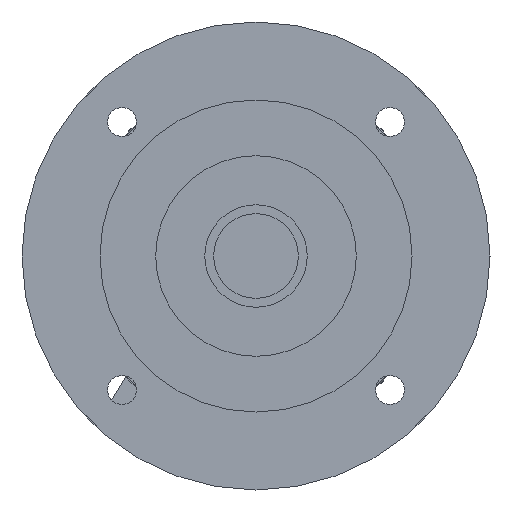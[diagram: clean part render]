
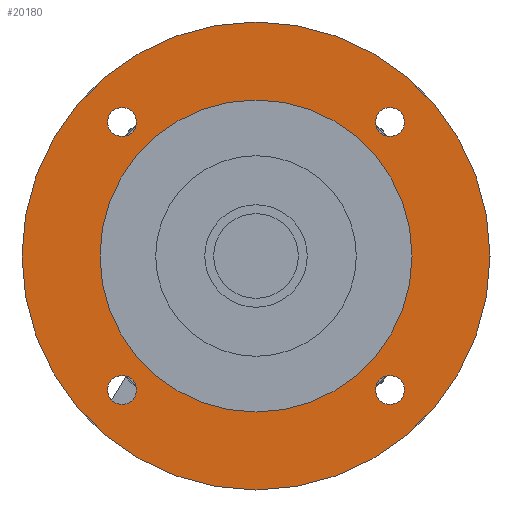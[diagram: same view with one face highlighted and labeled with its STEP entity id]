
A CAD part, left-side view. The second image highlights one B-rep face of the part: STEP entity #20180.
In plain terms, the highlighted planar face has unit normal (-1, 0, 0) as drawn and (0, 0, -1) by its records, which use the part's own axes.
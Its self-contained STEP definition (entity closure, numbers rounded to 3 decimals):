
#19020=CARTESIAN_POINT('',(-26.802,30.052,-42.));
#19030=VERTEX_POINT('',#19020);
#19060=CARTESIAN_POINT('',(-30.052,30.052,-42.));
#19070=DIRECTION('',(0.,0.,-1.));
#19080=DIRECTION('',(-1.,0.,0.));
#19090=AXIS2_PLACEMENT_3D('',#19060,#19070,#19080);
#19100=CIRCLE('',#19090,3.25);
#19110=CARTESIAN_POINT('',(-33.302,30.052,-42.));
#19120=VERTEX_POINT('',#19110);
#19130=EDGE_CURVE('',#19120,#19030,#19100,.T.);
#19250=CARTESIAN_POINT('',(0.,0.,-42.)
);
#19260=DIRECTION('',(0.,0.,-1.));
#19270=DIRECTION('',(1.,0.,0.));
#19280=AXIS2_PLACEMENT_3D('',#19250,#19260,#19270);
#19290=PLANE('',#19280);
#19300=CARTESIAN_POINT('',(30.052,-30.052,-42.));
#19310=DIRECTION('',(0.,0.,-1.));
#19320=DIRECTION('',(1.,0.,0.));
#19330=AXIS2_PLACEMENT_3D('',#19300,#19310,#19320);
#19340=CIRCLE('',#19330,3.25);
#19350=CARTESIAN_POINT('',(33.302,-30.052,-42.));
#19360=VERTEX_POINT('',#19350);
#19370=CARTESIAN_POINT('',(26.802,-30.052,-42.));
#19380=VERTEX_POINT('',#19370);
#19390=EDGE_CURVE('',#19360,#19380,#19340,.T.);
#19400=ORIENTED_EDGE('',*,*,#19390,.F.);
#19410=EDGE_CURVE('',#19380,#19360,#19340,.T.);
#19420=ORIENTED_EDGE('',*,*,#19410,.F.);
#19430=EDGE_LOOP('',(#19420,#19400));
#19440=FACE_BOUND('',#19430,.T.);
#19450=CARTESIAN_POINT('',(0.,0.,-42.)
);
#19460=DIRECTION('',(0.,0.,-1.));
#19470=DIRECTION('',(0.,-1.,0.));
#19480=AXIS2_PLACEMENT_3D('',#19450,#19460,#19470);
#19490=CIRCLE('',#19480,52.5);
#19500=CARTESIAN_POINT('',(-52.5,0.,-42.));
#19510=VERTEX_POINT('',#19500);
#19520=CARTESIAN_POINT('',(52.5,0.,-42.));
#19530=VERTEX_POINT('',#19520);
#19540=EDGE_CURVE('',#19510,#19530,#19490,.T.);
#19550=ORIENTED_EDGE('',*,*,#19540,.T.);
#19560=CARTESIAN_POINT('',(0.,-52.5,-42.));
#19570=VERTEX_POINT('',#19560);
#19580=EDGE_CURVE('',#19570,#19510,#19490,.T.);
#19590=ORIENTED_EDGE('',*,*,#19580,.T.);
#19600=EDGE_CURVE('',#19530,#19570,#19490,.T.);
#19610=ORIENTED_EDGE('',*,*,#19600,.T.);
#19620=EDGE_LOOP('',(#19610,#19590,#19550));
#19630=FACE_OUTER_BOUND('',#19620,.T.);
#19640=CARTESIAN_POINT('',(30.052,30.052,-42.));
#19650=DIRECTION('',(0.,0.,-1.));
#19660=DIRECTION('',(0.,1.,0.));
#19670=AXIS2_PLACEMENT_3D('',#19640,#19650,#19660);
#19680=CIRCLE('',#19670,3.25);
#19690=CARTESIAN_POINT('',(30.052,33.302,-42.));
#19700=VERTEX_POINT('',#19690);
#19710=CARTESIAN_POINT('',(30.052,26.802,-42.));
#19720=VERTEX_POINT('',#19710);
#19730=EDGE_CURVE('',#19700,#19720,#19680,.T.);
#19740=ORIENTED_EDGE('',*,*,#19730,.F.);
#19750=EDGE_CURVE('',#19720,#19700,#19680,.T.);
#19760=ORIENTED_EDGE('',*,*,#19750,.F.);
#19770=EDGE_LOOP('',(#19760,#19740));
#19780=FACE_BOUND('',#19770,.T.);
#19790=ORIENTED_EDGE('',*,*,#19130,.F.);
#19800=EDGE_CURVE('',#19030,#19120,#19100,.T.);
#19810=ORIENTED_EDGE('',*,*,#19800,.F.);
#19820=EDGE_LOOP('',(#19810,#19790));
#19830=FACE_BOUND('',#19820,.T.);
#19840=CARTESIAN_POINT('',(-30.052,-30.052,-42.));
#19850=DIRECTION('',(0.,0.,-1.));
#19860=DIRECTION('',(0.,-1.,0.));
#19870=AXIS2_PLACEMENT_3D('',#19840,#19850,#19860);
#19880=CIRCLE('',#19870,3.25);
#19890=CARTESIAN_POINT('',(-30.052,-33.302,-42.));
#19900=VERTEX_POINT('',#19890);
#19910=CARTESIAN_POINT('',(-30.052,-26.802,-42.));
#19920=VERTEX_POINT('',#19910);
#19930=EDGE_CURVE('',#19900,#19920,#19880,.T.);
#19940=ORIENTED_EDGE('',*,*,#19930,.F.);
#19950=EDGE_CURVE('',#19920,#19900,#19880,.T.);
#19960=ORIENTED_EDGE('',*,*,#19950,.F.);
#19970=EDGE_LOOP('',(#19960,#19940));
#19980=FACE_BOUND('',#19970,.T.);
#19990=CARTESIAN_POINT('',(0.,0.,
-42.));
#20000=DIRECTION('',(0.,0.,1.));
#20010=DIRECTION('',(0.,1.,0.));
#20020=AXIS2_PLACEMENT_3D('',#19990,#20000,#20010);
#20030=CIRCLE('',#20020,35.);
#20040=CARTESIAN_POINT('',(-35.,0.,-42.));
#20050=VERTEX_POINT('',#20040);
#20060=CARTESIAN_POINT('',(35.,0.,-42.));
#20070=VERTEX_POINT('',#20060);
#20080=EDGE_CURVE('',#20050,#20070,#20030,.T.);
#20090=ORIENTED_EDGE('',*,*,#20080,.T.);
#20100=CARTESIAN_POINT('',(0.,35.,-42.));
#20110=VERTEX_POINT('',#20100);
#20120=EDGE_CURVE('',#20110,#20050,#20030,.T.);
#20130=ORIENTED_EDGE('',*,*,#20120,.T.);
#20140=EDGE_CURVE('',#20070,#20110,#20030,.T.);
#20150=ORIENTED_EDGE('',*,*,#20140,.T.);
#20160=EDGE_LOOP('',(#20150,#20130,#20090));
#20170=FACE_BOUND('',#20160,.T.);
#20180=ADVANCED_FACE('',(#19440,#19630,#19780,#19830,#19980,#20170),
#19290,.T.);
